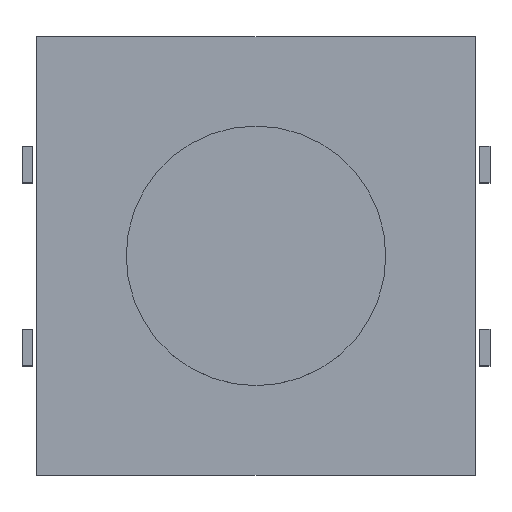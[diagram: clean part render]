
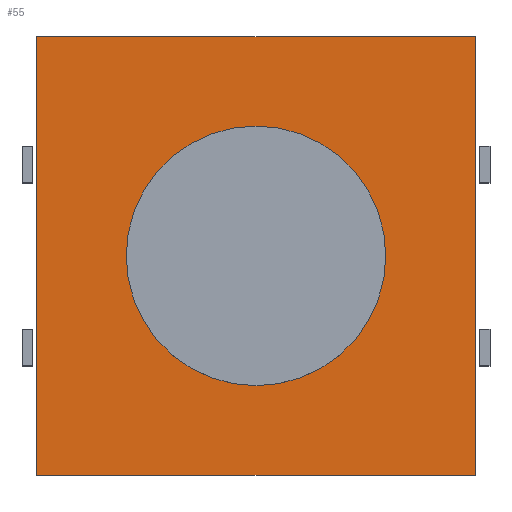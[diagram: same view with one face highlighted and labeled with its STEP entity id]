
A CAD part, top view. The second image highlights one B-rep face of the part: STEP entity #55.
In plain terms, the highlighted planar face has unit normal (0, 0, 1).
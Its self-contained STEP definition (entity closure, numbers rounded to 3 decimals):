
#55 = ADVANCED_FACE('',(#56),#70,.T.);
#56 = FACE_BOUND('',#57,.T.);
#57 = EDGE_LOOP('',(#58,#93,#121,#149));
#58 = ORIENTED_EDGE('',*,*,#59,.T.);
#59 = EDGE_CURVE('',#60,#62,#64,.T.);
#60 = VERTEX_POINT('',#61);
#61 = CARTESIAN_POINT('',(6.,-53.,-3.6));
#62 = VERTEX_POINT('',#63);
#63 = CARTESIAN_POINT('',(6.,-41.,-3.6));
#64 = SURFACE_CURVE('',#65,(#69,#81),.PCURVE_S1.);
#65 = LINE('',#66,#67);
#66 = CARTESIAN_POINT('',(6.,-47.,-3.6));
#67 = VECTOR('',#68,1.);
#68 = DIRECTION('',(0.,1.,0.));
#69 = PCURVE('',#70,#75);
#70 = PLANE('',#71);
#71 = AXIS2_PLACEMENT_3D('',#72,#73,#74);
#72 = CARTESIAN_POINT('',(0.,-47.,-3.6));
#73 = DIRECTION('',(0.,0.,1.));
#74 = DIRECTION('',(1.,0.,-0.));
#75 = DEFINITIONAL_REPRESENTATION('',(#76),#80);
#76 = LINE('',#77,#78);
#77 = CARTESIAN_POINT('',(6.,0.));
#78 = VECTOR('',#79,1.);
#79 = DIRECTION('',(0.,1.));
#80 = ( GEOMETRIC_REPRESENTATION_CONTEXT(2) 
PARAMETRIC_REPRESENTATION_CONTEXT() REPRESENTATION_CONTEXT('2D SPACE',''
  ) );
#81 = PCURVE('',#82,#87);
#82 = PLANE('',#83);
#83 = AXIS2_PLACEMENT_3D('',#84,#85,#86);
#84 = CARTESIAN_POINT('',(6.,-47.,-5.35));
#85 = DIRECTION('',(-1.,0.,0.));
#86 = DIRECTION('',(0.,0.,1.));
#87 = DEFINITIONAL_REPRESENTATION('',(#88),#92);
#88 = LINE('',#89,#90);
#89 = CARTESIAN_POINT('',(1.75,0.));
#90 = VECTOR('',#91,1.);
#91 = DIRECTION('',(0.,1.));
#92 = ( GEOMETRIC_REPRESENTATION_CONTEXT(2) 
PARAMETRIC_REPRESENTATION_CONTEXT() REPRESENTATION_CONTEXT('2D SPACE',''
  ) );
#93 = ORIENTED_EDGE('',*,*,#94,.T.);
#94 = EDGE_CURVE('',#62,#95,#97,.T.);
#95 = VERTEX_POINT('',#96);
#96 = CARTESIAN_POINT('',(-6.,-41.,-3.6));
#97 = SURFACE_CURVE('',#98,(#102,#109),.PCURVE_S1.);
#98 = LINE('',#99,#100);
#99 = CARTESIAN_POINT('',(0.,-41.,-3.6));
#100 = VECTOR('',#101,1.);
#101 = DIRECTION('',(-1.,0.,0.));
#102 = PCURVE('',#70,#103);
#103 = DEFINITIONAL_REPRESENTATION('',(#104),#108);
#104 = LINE('',#105,#106);
#105 = CARTESIAN_POINT('',(0.,6.));
#106 = VECTOR('',#107,1.);
#107 = DIRECTION('',(-1.,0.));
#108 = ( GEOMETRIC_REPRESENTATION_CONTEXT(2) 
PARAMETRIC_REPRESENTATION_CONTEXT() REPRESENTATION_CONTEXT('2D SPACE',''
  ) );
#109 = PCURVE('',#110,#115);
#110 = PLANE('',#111);
#111 = AXIS2_PLACEMENT_3D('',#112,#113,#114);
#112 = CARTESIAN_POINT('',(0.,-41.,-5.35));
#113 = DIRECTION('',(0.,-1.,0.));
#114 = DIRECTION('',(0.,0.,-1.));
#115 = DEFINITIONAL_REPRESENTATION('',(#116),#120);
#116 = LINE('',#117,#118);
#117 = CARTESIAN_POINT('',(-1.75,0.));
#118 = VECTOR('',#119,1.);
#119 = DIRECTION('',(0.,-1.));
#120 = ( GEOMETRIC_REPRESENTATION_CONTEXT(2) 
PARAMETRIC_REPRESENTATION_CONTEXT() REPRESENTATION_CONTEXT('2D SPACE',''
  ) );
#121 = ORIENTED_EDGE('',*,*,#122,.T.);
#122 = EDGE_CURVE('',#95,#123,#125,.T.);
#123 = VERTEX_POINT('',#124);
#124 = CARTESIAN_POINT('',(-6.,-53.,-3.6));
#125 = SURFACE_CURVE('',#126,(#130,#137),.PCURVE_S1.);
#126 = LINE('',#127,#128);
#127 = CARTESIAN_POINT('',(-6.,-47.,-3.6));
#128 = VECTOR('',#129,1.);
#129 = DIRECTION('',(0.,-1.,0.));
#130 = PCURVE('',#70,#131);
#131 = DEFINITIONAL_REPRESENTATION('',(#132),#136);
#132 = LINE('',#133,#134);
#133 = CARTESIAN_POINT('',(-6.,0.));
#134 = VECTOR('',#135,1.);
#135 = DIRECTION('',(0.,-1.));
#136 = ( GEOMETRIC_REPRESENTATION_CONTEXT(2) 
PARAMETRIC_REPRESENTATION_CONTEXT() REPRESENTATION_CONTEXT('2D SPACE',''
  ) );
#137 = PCURVE('',#138,#143);
#138 = PLANE('',#139);
#139 = AXIS2_PLACEMENT_3D('',#140,#141,#142);
#140 = CARTESIAN_POINT('',(-6.,-47.,-5.35));
#141 = DIRECTION('',(1.,0.,0.));
#142 = DIRECTION('',(0.,0.,-1.));
#143 = DEFINITIONAL_REPRESENTATION('',(#144),#148);
#144 = LINE('',#145,#146);
#145 = CARTESIAN_POINT('',(-1.75,0.));
#146 = VECTOR('',#147,1.);
#147 = DIRECTION('',(0.,-1.));
#148 = ( GEOMETRIC_REPRESENTATION_CONTEXT(2) 
PARAMETRIC_REPRESENTATION_CONTEXT() REPRESENTATION_CONTEXT('2D SPACE',''
  ) );
#149 = ORIENTED_EDGE('',*,*,#150,.T.);
#150 = EDGE_CURVE('',#123,#60,#151,.T.);
#151 = SURFACE_CURVE('',#152,(#156,#163),.PCURVE_S1.);
#152 = LINE('',#153,#154);
#153 = CARTESIAN_POINT('',(0.,-53.,-3.6));
#154 = VECTOR('',#155,1.);
#155 = DIRECTION('',(1.,0.,0.));
#156 = PCURVE('',#70,#157);
#157 = DEFINITIONAL_REPRESENTATION('',(#158),#162);
#158 = LINE('',#159,#160);
#159 = CARTESIAN_POINT('',(0.,-6.));
#160 = VECTOR('',#161,1.);
#161 = DIRECTION('',(1.,0.));
#162 = ( GEOMETRIC_REPRESENTATION_CONTEXT(2) 
PARAMETRIC_REPRESENTATION_CONTEXT() REPRESENTATION_CONTEXT('2D SPACE',''
  ) );
#163 = PCURVE('',#164,#169);
#164 = PLANE('',#165);
#165 = AXIS2_PLACEMENT_3D('',#166,#167,#168);
#166 = CARTESIAN_POINT('',(0.,-53.,-5.35));
#167 = DIRECTION('',(0.,1.,0.));
#168 = DIRECTION('',(0.,-0.,1.));
#169 = DEFINITIONAL_REPRESENTATION('',(#170),#174);
#170 = LINE('',#171,#172);
#171 = CARTESIAN_POINT('',(1.75,0.));
#172 = VECTOR('',#173,1.);
#173 = DIRECTION('',(0.,1.));
#174 = ( GEOMETRIC_REPRESENTATION_CONTEXT(2) 
PARAMETRIC_REPRESENTATION_CONTEXT() REPRESENTATION_CONTEXT('2D SPACE',''
  ) );
